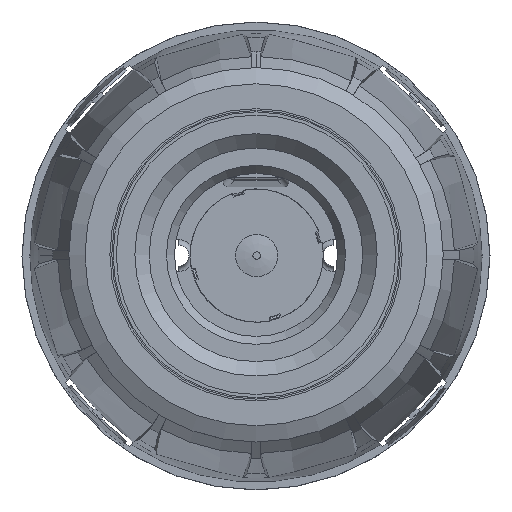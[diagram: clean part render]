
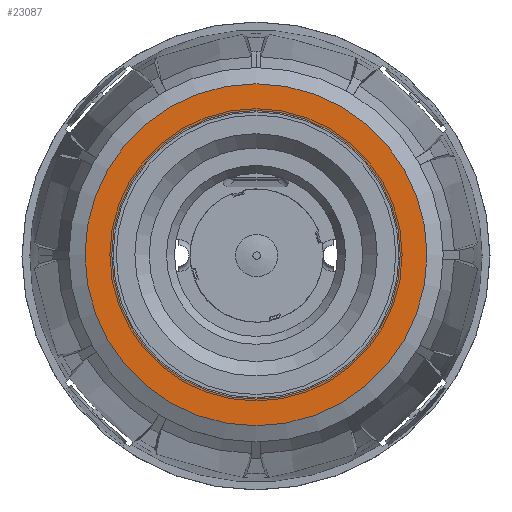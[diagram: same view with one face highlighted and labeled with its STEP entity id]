
A CAD part, top view. The second image highlights one B-rep face of the part: STEP entity #23087.
In plain terms, the highlighted planar face has unit normal (0, 0, 1).
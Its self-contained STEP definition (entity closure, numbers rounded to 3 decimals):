
#133 = DIRECTION ( 'NONE',  ( 0., 0., 1. ) ) ;
#152 = CARTESIAN_POINT ( 'NONE',  ( 0., 0., 9.121 ) ) ;
#1061 = AXIS2_PLACEMENT_3D ( 'NONE', #4707, #133, #8432 ) ;
#1408 = DIRECTION ( 'NONE',  ( 0., 0., 1. ) ) ;
#2439 = CARTESIAN_POINT ( 'NONE',  ( 63.941, 0., 9.121 ) ) ;
#2474 = EDGE_CURVE ( 'NONE', #4055, #4055, #17148, .T. ) ;
#3649 = ORIENTED_EDGE ( 'NONE', *, *, #22004, .T. ) ;
#3786 = CIRCLE ( 'NONE', #26494, 63.941 ) ;
#4055 = VERTEX_POINT ( 'NONE', #6479 ) ;
#4707 = CARTESIAN_POINT ( 'NONE',  ( 0., 0., 9.121 ) ) ;
#5663 = ORIENTED_EDGE ( 'NONE', *, *, #2474, .F. ) ;
#6479 = CARTESIAN_POINT ( 'NONE',  ( 53.941, 0., 9.121 ) ) ;
#8308 = DIRECTION ( 'NONE',  ( 1., 0., 0. ) ) ;
#8432 = DIRECTION ( 'NONE',  ( 1., 0., 0. ) ) ;
#9107 = VERTEX_POINT ( 'NONE', #2439 ) ;
#10714 = EDGE_LOOP ( 'NONE', ( #5663 ) ) ;
#12201 = FACE_BOUND ( 'NONE', #10714, .T. ) ;
#13836 = FACE_OUTER_BOUND ( 'NONE', #21124, .T. ) ;
#17148 = CIRCLE ( 'NONE', #26560, 53.941 ) ;
#18005 = PLANE ( 'NONE',  #1061 ) ;
#20857 = DIRECTION ( 'NONE',  ( 0., 0., 1. ) ) ;
#21124 = EDGE_LOOP ( 'NONE', ( #3649 ) ) ;
#22004 = EDGE_CURVE ( 'NONE', #9107, #9107, #3786, .T. ) ;
#23087 = ADVANCED_FACE ( 'NONE', ( #12201, #13836 ), #18005, .T. ) ;
#23842 = CARTESIAN_POINT ( 'NONE',  ( 0., 0., 9.121 ) ) ;
#25836 = DIRECTION ( 'NONE',  ( 1., 0., 0. ) ) ;
#26494 = AXIS2_PLACEMENT_3D ( 'NONE', #152, #20857, #8308 ) ;
#26560 = AXIS2_PLACEMENT_3D ( 'NONE', #23842, #1408, #25836 ) ;
